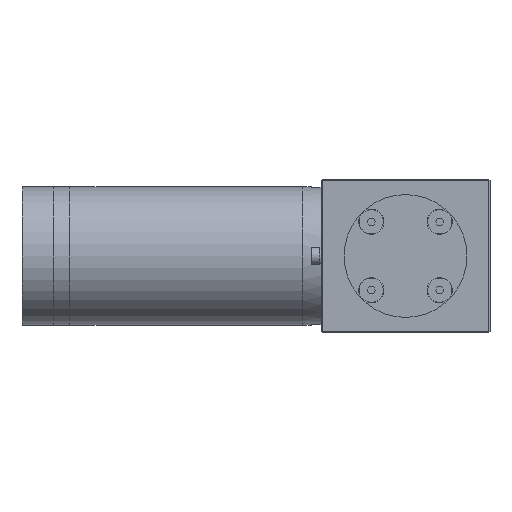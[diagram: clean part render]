
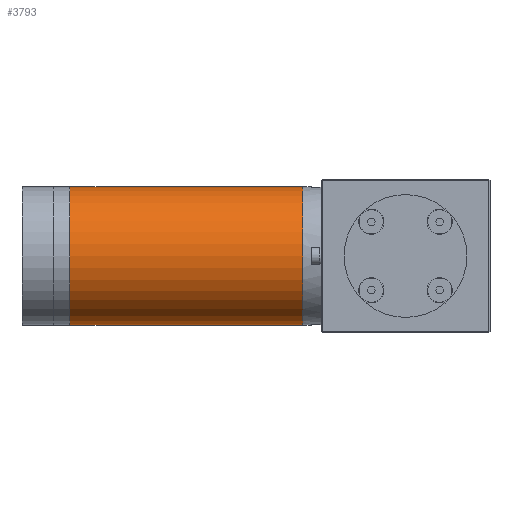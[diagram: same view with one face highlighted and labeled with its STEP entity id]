
A CAD part, left-side view. The second image highlights one B-rep face of the part: STEP entity #3793.
In plain terms, the highlighted cylindrical face has radius 28.575 mm (diameter 57.15 mm), a partial arc.
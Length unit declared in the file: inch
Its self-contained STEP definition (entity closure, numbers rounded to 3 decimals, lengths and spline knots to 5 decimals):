
#1 = CIRCLE ( 'NONE', #16755, 1.125 ) ;
#119 = DIRECTION ( 'NONE',  ( 0., -1., 0. ) ) ;
#355 = AXIS2_PLACEMENT_3D ( 'NONE', #15175, #8433, #7348 ) ;
#385 = CARTESIAN_POINT ( 'NONE',  ( 5.90604, 2.6952, 0.57055 ) ) ;
#608 = ORIENTED_EDGE ( 'NONE', *, *, #12454, .F. ) ;
#978 = CARTESIAN_POINT ( 'NONE',  ( 5.90604, 19692.3015, 1.69555 ) ) ;
#1113 = DIRECTION ( 'NONE',  ( 0., 0., 1. ) ) ;
#1996 = VERTEX_POINT ( 'NONE', #6690 ) ;
#2181 = DIRECTION ( 'NONE',  ( 0., -1., 0. ) ) ;
#3604 = VECTOR ( 'NONE', #2181, 39.37008 ) ;
#3793 = ADVANCED_FACE ( 'NONE', ( #14074 ), #6914, .T. ) ;
#3958 = CARTESIAN_POINT ( 'NONE',  ( 5.90604, 2.6952, 1.69555 ) ) ;
#4366 = VECTOR ( 'NONE', #119, 39.37008 ) ;
#5761 = CARTESIAN_POINT ( 'NONE',  ( 5.90604, 19692.3015, 2.82055 ) ) ;
#6044 = LINE ( 'NONE', #5761, #3604 ) ;
#6189 = EDGE_LOOP ( 'NONE', ( #608, #14331, #12843, #11000 ) ) ;
#6194 = DIRECTION ( 'NONE',  ( 0., 0., -1. ) ) ;
#6390 = DIRECTION ( 'NONE',  ( 0., 1., 0. ) ) ;
#6690 = CARTESIAN_POINT ( 'NONE',  ( 5.90604, 2.6952, 2.82055 ) ) ;
#6914 = CYLINDRICAL_SURFACE ( 'NONE', #10430, 1.125 ) ;
#7348 = DIRECTION ( 'NONE',  ( 0., 0., -1. ) ) ;
#7513 = EDGE_CURVE ( 'NONE', #15268, #1996, #1, .T. ) ;
#8218 = LINE ( 'NONE', #15908, #4366 ) ;
#8433 = DIRECTION ( 'NONE',  ( 0., -1., 0. ) ) ;
#10031 = VERTEX_POINT ( 'NONE', #11522 ) ;
#10430 = AXIS2_PLACEMENT_3D ( 'NONE', #978, #11334, #6194 ) ;
#10904 = CIRCLE ( 'NONE', #355, 1.125 ) ;
#11000 = ORIENTED_EDGE ( 'NONE', *, *, #7513, .T. ) ;
#11033 = EDGE_CURVE ( 'NONE', #14735, #15268, #8218, .T. ) ;
#11334 = DIRECTION ( 'NONE',  ( 0., -1., 0. ) ) ;
#11522 = CARTESIAN_POINT ( 'NONE',  ( 5.90604, 6.48213, 2.82055 ) ) ;
#12131 = CARTESIAN_POINT ( 'NONE',  ( 5.90604, 6.48213, 0.57055 ) ) ;
#12454 = EDGE_CURVE ( 'NONE', #10031, #1996, #6044, .T. ) ;
#12843 = ORIENTED_EDGE ( 'NONE', *, *, #11033, .T. ) ;
#13278 = EDGE_CURVE ( 'NONE', #10031, #14735, #10904, .T. ) ;
#14074 = FACE_OUTER_BOUND ( 'NONE', #6189, .T. ) ;
#14331 = ORIENTED_EDGE ( 'NONE', *, *, #13278, .T. ) ;
#14735 = VERTEX_POINT ( 'NONE', #12131 ) ;
#15175 = CARTESIAN_POINT ( 'NONE',  ( 5.90604, 6.48213, 1.69555 ) ) ;
#15268 = VERTEX_POINT ( 'NONE', #385 ) ;
#15908 = CARTESIAN_POINT ( 'NONE',  ( 5.90604, 19692.3015, 0.57055 ) ) ;
#16755 = AXIS2_PLACEMENT_3D ( 'NONE', #3958, #6390, #1113 ) ;
